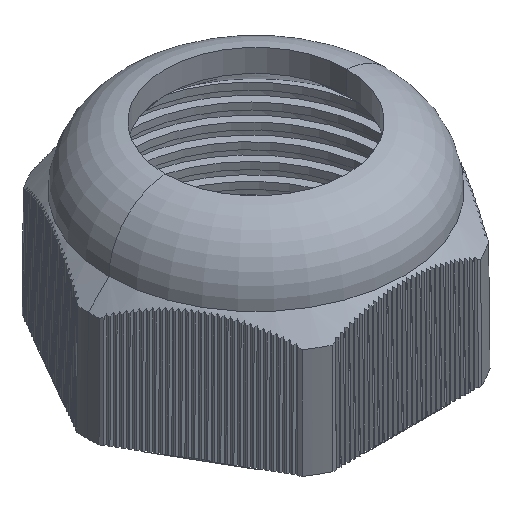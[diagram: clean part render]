
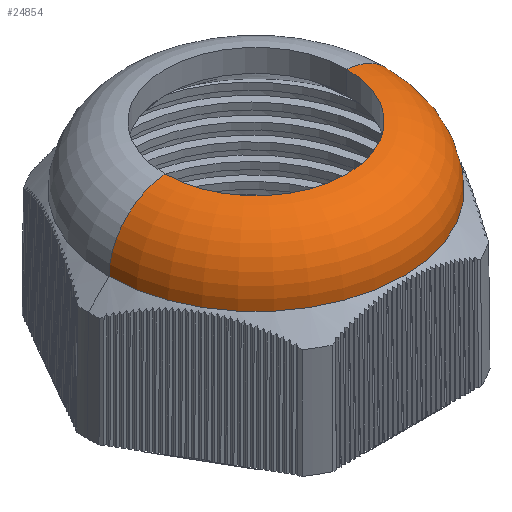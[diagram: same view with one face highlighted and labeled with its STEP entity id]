
A CAD part, isometric view. The second image highlights one B-rep face of the part: STEP entity #24854.
In plain terms, the highlighted toroidal (fillet/blend) face has major radius 10 mm and minor radius 7 mm.
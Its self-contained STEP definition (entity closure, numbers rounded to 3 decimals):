
#795 = ORIENTED_EDGE ( 'NONE', *, *, #20589, .F. ) ;
#1972 = ORIENTED_EDGE ( 'NONE', *, *, #23076, .F. ) ;
#2053 = DIRECTION ( 'NONE',  ( -1., 0., 0. ) ) ;
#2392 = DIRECTION ( 'NONE',  ( 1., 0., 0. ) ) ;
#4355 = CIRCLE ( 'NONE', #11825, 17. ) ;
#4688 = CARTESIAN_POINT ( 'NONE',  ( 0., 0., 15. ) ) ;
#6200 = DIRECTION ( 'NONE',  ( 0., 0., -1. ) ) ;
#6497 = DIRECTION ( 'NONE',  ( -1., 0., 0. ) ) ;
#7217 = EDGE_CURVE ( 'NONE', #11188, #24793, #4355, .T. ) ;
#7632 = DIRECTION ( 'NONE',  ( -1., 0., 0. ) ) ;
#8019 = TOROIDAL_SURFACE ( 'NONE', #28557, 10., 7. ) ;
#8846 = DIRECTION ( 'NONE',  ( 0., -1., 0. ) ) ;
#9088 = DIRECTION ( 'NONE',  ( 0., 0., -1. ) ) ;
#9602 = AXIS2_PLACEMENT_3D ( 'NONE', #26993, #8846, #2392 ) ;
#10743 = CARTESIAN_POINT ( 'NONE',  ( -17., 0., 15. ) ) ;
#10988 = AXIS2_PLACEMENT_3D ( 'NONE', #12461, #21388, #25357 ) ;
#11188 = VERTEX_POINT ( 'NONE', #25441 ) ;
#11825 = AXIS2_PLACEMENT_3D ( 'NONE', #4688, #9088, #2053 ) ;
#12346 = CARTESIAN_POINT ( 'NONE',  ( -10.5, 0., 22. ) ) ;
#12461 = CARTESIAN_POINT ( 'NONE',  ( 0., 0., 22. ) ) ;
#13296 = EDGE_CURVE ( 'NONE', #28298, #24793, #27826, .T. ) ;
#14234 = CARTESIAN_POINT ( 'NONE',  ( 10.5, 0., 22. ) ) ;
#15109 = VERTEX_POINT ( 'NONE', #14234 ) ;
#19521 = CARTESIAN_POINT ( 'NONE',  ( 0., 0., 15.018 ) ) ;
#20299 = ORIENTED_EDGE ( 'NONE', *, *, #7217, .F. ) ;
#20589 = EDGE_CURVE ( 'NONE', #15109, #11188, #28929, .T. ) ;
#21093 = DIRECTION ( 'NONE',  ( 0., 1., 0. ) ) ;
#21388 = DIRECTION ( 'NONE',  ( 0., 0., 1. ) ) ;
#23076 = EDGE_CURVE ( 'NONE', #28298, #15109, #25005, .T. ) ;
#24793 = VERTEX_POINT ( 'NONE', #10743 ) ;
#24854 = ADVANCED_FACE ( 'NONE', ( #26694 ), #8019, .T. ) ;
#25005 = CIRCLE ( 'NONE', #10988, 10.5 ) ;
#25049 = CARTESIAN_POINT ( 'NONE',  ( 10., 0., 15.018 ) ) ;
#25145 = EDGE_LOOP ( 'NONE', ( #795, #1972, #25211, #20299 ) ) ;
#25211 = ORIENTED_EDGE ( 'NONE', *, *, #13296, .T. ) ;
#25357 = DIRECTION ( 'NONE',  ( 1., 0., 0. ) ) ;
#25441 = CARTESIAN_POINT ( 'NONE',  ( 17., 0., 15. ) ) ;
#25671 = AXIS2_PLACEMENT_3D ( 'NONE', #25049, #21093, #7632 ) ;
#26694 = FACE_OUTER_BOUND ( 'NONE', #25145, .T. ) ;
#26993 = CARTESIAN_POINT ( 'NONE',  ( -10., 0., 15.018 ) ) ;
#27826 = CIRCLE ( 'NONE', #9602, 7. ) ;
#28298 = VERTEX_POINT ( 'NONE', #12346 ) ;
#28557 = AXIS2_PLACEMENT_3D ( 'NONE', #19521, #6200, #6497 ) ;
#28929 = CIRCLE ( 'NONE', #25671, 7. ) ;
